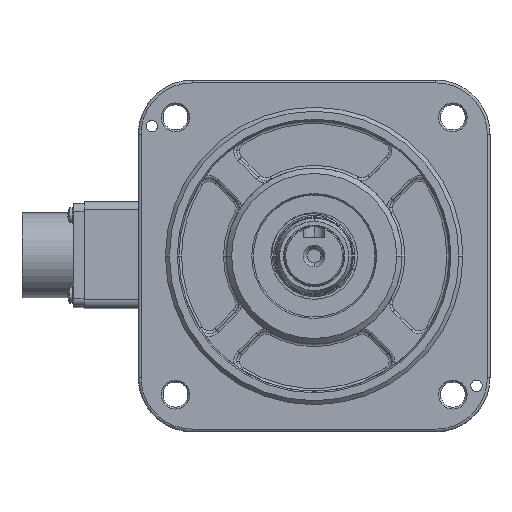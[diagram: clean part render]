
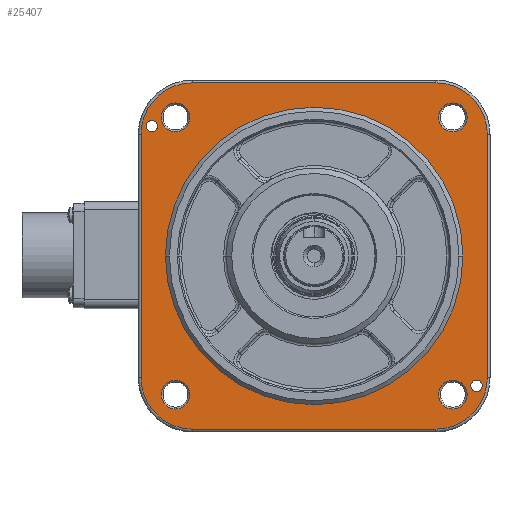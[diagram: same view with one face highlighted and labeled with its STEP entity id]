
A CAD part, left-side view. The second image highlights one B-rep face of the part: STEP entity #25407.
In plain terms, the highlighted planar face has unit normal (-1, 0, 0).
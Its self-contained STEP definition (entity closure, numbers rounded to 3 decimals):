
#20898=CARTESIAN_POINT('',(-107.182,154.96,
-11.475));
#20899=DIRECTION('',(-1.,0.,0.));
#20900=DIRECTION('',(0.,1.,0.));
#20901=AXIS2_PLACEMENT_3D('',#20898,#20899,#20900);
#20903=CARTESIAN_POINT('',(-107.182,154.96,
78.525));
#20904=DIRECTION('',(-1.,0.,0.));
#20905=DIRECTION('',(0.,0.,1.));
#20906=AXIS2_PLACEMENT_3D('',#20903,#20904,#20905);
#20908=CARTESIAN_POINT('',(-107.182,64.96,
78.525));
#20909=DIRECTION('',(-1.,0.,0.));
#20910=DIRECTION('',(0.,-1.,0.));
#20911=AXIS2_PLACEMENT_3D('',#20908,#20909,#20910);
#20913=CARTESIAN_POINT('',(-107.182,64.96,
-11.475));
#20914=DIRECTION('',(-1.,0.,0.));
#20915=DIRECTION('',(0.,0.,-1.));
#20916=AXIS2_PLACEMENT_3D('',#20913,#20914,#20915);
#20918=CARTESIAN_POINT('',(-107.182,169.96,
81.525));
#20919=DIRECTION('',(1.,0.,0.));
#20920=DIRECTION('',(0.,-1.,0.));
#20921=AXIS2_PLACEMENT_3D('',#20918,#20919,#20920);
#20923=CARTESIAN_POINT('',(-107.182,169.96,
81.525));
#20924=DIRECTION('',(1.,0.,0.));
#20925=DIRECTION('',(0.,1.,0.));
#20926=AXIS2_PLACEMENT_3D('',#20923,#20924,#20925);
#20928=CARTESIAN_POINT('',(-107.182,49.96,
-14.475));
#20929=DIRECTION('',(1.,0.,0.));
#20930=DIRECTION('',(0.,-1.,0.));
#20931=AXIS2_PLACEMENT_3D('',#20928,#20929,#20930);
#20933=CARTESIAN_POINT('',(-107.182,49.96,
-14.475));
#20934=DIRECTION('',(1.,0.,0.));
#20935=DIRECTION('',(0.,1.,0.));
#20936=AXIS2_PLACEMENT_3D('',#20933,#20934,#20935);
#20938=CARTESIAN_POINT('',(-107.182,109.96,
33.525));
#20939=DIRECTION('',(1.,0.,0.));
#20940=DIRECTION('',(0.,1.,0.));
#20941=AXIS2_PLACEMENT_3D('',#20938,#20939,#20940);
#20943=CARTESIAN_POINT('',(-107.182,109.96,
33.525));
#20944=DIRECTION('',(1.,0.,0.));
#20945=DIRECTION('',(0.,-1.,0.));
#20946=AXIS2_PLACEMENT_3D('',#20943,#20944,#20945);
#20948=CARTESIAN_POINT('',(-107.182,58.694,
-17.74));
#20949=DIRECTION('',(1.,0.,0.));
#20950=DIRECTION('',(0.,1.,0.));
#20951=AXIS2_PLACEMENT_3D('',#20948,#20949,#20950);
#20953=CARTESIAN_POINT('',(-107.182,58.694,
-17.74));
#20954=DIRECTION('',(1.,0.,0.));
#20955=DIRECTION('',(0.,-1.,0.));
#20956=AXIS2_PLACEMENT_3D('',#20953,#20954,#20955);
#20958=CARTESIAN_POINT('',(-107.182,161.225,
-17.74));
#20959=DIRECTION('',(1.,0.,0.));
#20960=DIRECTION('',(0.,1.,0.));
#20961=AXIS2_PLACEMENT_3D('',#20958,#20959,#20960);
#20963=CARTESIAN_POINT('',(-107.182,161.225,
-17.74));
#20964=DIRECTION('',(1.,0.,0.));
#20965=DIRECTION('',(0.,-1.,0.));
#20966=AXIS2_PLACEMENT_3D('',#20963,#20964,#20965);
#20968=CARTESIAN_POINT('',(-107.182,161.225,
84.79));
#20969=DIRECTION('',(1.,0.,0.));
#20970=DIRECTION('',(0.,1.,0.));
#20971=AXIS2_PLACEMENT_3D('',#20968,#20969,#20970);
#20973=CARTESIAN_POINT('',(-107.182,161.225,
84.79));
#20974=DIRECTION('',(1.,0.,0.));
#20975=DIRECTION('',(0.,-1.,0.));
#20976=AXIS2_PLACEMENT_3D('',#20973,#20974,#20975);
#20978=CARTESIAN_POINT('',(-107.182,58.694,
84.79));
#20979=DIRECTION('',(1.,0.,0.));
#20980=DIRECTION('',(0.,1.,0.));
#20981=AXIS2_PLACEMENT_3D('',#20978,#20979,#20980);
#20983=CARTESIAN_POINT('',(-107.182,58.694,
84.79));
#20984=DIRECTION('',(1.,0.,0.));
#20985=DIRECTION('',(0.,-1.,0.));
#20986=AXIS2_PLACEMENT_3D('',#20983,#20984,#20985);
#20988=DIRECTION('',(0.,1.,0.));
#20989=VECTOR('',#20988,90.);
#20990=CARTESIAN_POINT('',(-107.182,64.96,
-30.475));
#20991=LINE('',#20990,#20989);
#21011=DIRECTION('',(0.,0.,1.));
#21012=VECTOR('',#21011,90.);
#21013=CARTESIAN_POINT('',(-107.182,173.96,
-11.475));
#21014=LINE('',#21013,#21012);
#21038=DIRECTION('',(0.,-1.,0.));
#21039=VECTOR('',#21038,90.);
#21040=CARTESIAN_POINT('',(-107.182,154.96,
97.525));
#21041=LINE('',#21040,#21039);
#21061=DIRECTION('',(0.,0.,-1.));
#21062=VECTOR('',#21061,90.);
#21063=CARTESIAN_POINT('',(-107.182,45.96,
78.525));
#21064=LINE('',#21063,#21062);
#23666=CARTESIAN_POINT('',(-107.182,164.96,
33.525));
#23667=CARTESIAN_POINT('',(-107.182,54.96,
33.525));
#23668=VERTEX_POINT('',#23666);
#23669=VERTEX_POINT('',#23667);
#23764=CARTESIAN_POINT('',(-107.182,63.994,
-17.74));
#23765=CARTESIAN_POINT('',(-107.182,53.394,
-17.74));
#23766=VERTEX_POINT('',#23764);
#23767=VERTEX_POINT('',#23765);
#23895=CARTESIAN_POINT('',(-107.182,154.96,
-30.475));
#23897=VERTEX_POINT('',#23895);
#23904=CARTESIAN_POINT('',(-107.182,154.96,
97.525));
#23906=VERTEX_POINT('',#23904);
#24000=CARTESIAN_POINT('',(-107.182,63.994,
84.79));
#24001=CARTESIAN_POINT('',(-107.182,53.394,
84.79));
#24002=VERTEX_POINT('',#24000);
#24003=VERTEX_POINT('',#24001);
#24022=CARTESIAN_POINT('',(-107.182,155.925,
84.79));
#24024=VERTEX_POINT('',#24022);
#24053=CARTESIAN_POINT('',(-107.182,155.925,
-17.74));
#24055=VERTEX_POINT('',#24053);
#24065=CARTESIAN_POINT('',(-107.182,47.86,
-14.475));
#24066=CARTESIAN_POINT('',(-107.182,52.06,
-14.475));
#24067=VERTEX_POINT('',#24065);
#24068=VERTEX_POINT('',#24066);
#24137=CARTESIAN_POINT('',(-107.182,64.96,
97.525));
#24138=VERTEX_POINT('',#24137);
#24147=CARTESIAN_POINT('',(-107.182,173.96,
-11.475));
#24148=CARTESIAN_POINT('',(-107.182,173.96,
78.525));
#24149=VERTEX_POINT('',#24147);
#24150=VERTEX_POINT('',#24148);
#24231=CARTESIAN_POINT('',(-107.182,45.96,
78.525));
#24232=VERTEX_POINT('',#24231);
#24253=CARTESIAN_POINT('',(-107.182,64.96,
-30.475));
#24254=CARTESIAN_POINT('',(-107.182,45.96,
-11.475));
#24255=VERTEX_POINT('',#24253);
#24256=VERTEX_POINT('',#24254);
#24328=CARTESIAN_POINT('',(-107.182,166.525,
-17.74));
#24329=VERTEX_POINT('',#24328);
#24406=CARTESIAN_POINT('',(-107.182,166.525,
84.79));
#24407=VERTEX_POINT('',#24406);
#24408=CARTESIAN_POINT('',(-107.182,172.06,
81.525));
#24409=CARTESIAN_POINT('',(-107.182,167.86,
81.525));
#24410=VERTEX_POINT('',#24408);
#24411=VERTEX_POINT('',#24409);
#25344=CARTESIAN_POINT('',(-107.182,109.96,
33.525));
#25345=DIRECTION('',(-1.,0.,0.));
#25346=DIRECTION('',(0.,-1.,0.));
#25347=AXIS2_PLACEMENT_3D('',#25344,#25345,#25346);
#25348=PLANE('',#25347);
#25350=ORIENTED_EDGE('',*,*,#25349,.T.);
#25352=ORIENTED_EDGE('',*,*,#25351,.F.);
#25354=ORIENTED_EDGE('',*,*,#25353,.T.);
#25356=ORIENTED_EDGE('',*,*,#25355,.F.);
#25358=ORIENTED_EDGE('',*,*,#25357,.T.);
#25360=ORIENTED_EDGE('',*,*,#25359,.F.);
#25362=ORIENTED_EDGE('',*,*,#25361,.T.);
#25364=ORIENTED_EDGE('',*,*,#25363,.F.);
#25365=EDGE_LOOP('',(#25350,#25352,#25354,#25356,#25358,#25360,#25362,#25364));
#25366=FACE_OUTER_BOUND('',#25365,.F.);
#25368=ORIENTED_EDGE('',*,*,#25367,.F.);
#25370=ORIENTED_EDGE('',*,*,#25369,.F.);
#25371=EDGE_LOOP('',(#25368,#25370));
#25372=FACE_BOUND('',#25371,.F.);
#25374=ORIENTED_EDGE('',*,*,#25373,.F.);
#25376=ORIENTED_EDGE('',*,*,#25375,.F.);
#25377=EDGE_LOOP('',(#25374,#25376));
#25378=FACE_BOUND('',#25377,.F.);
#25380=ORIENTED_EDGE('',*,*,#25379,.F.);
#25382=ORIENTED_EDGE('',*,*,#25381,.F.);
#25383=EDGE_LOOP('',(#25380,#25382));
#25384=FACE_BOUND('',#25383,.F.);
#25386=ORIENTED_EDGE('',*,*,#25385,.F.);
#25388=ORIENTED_EDGE('',*,*,#25387,.F.);
#25389=EDGE_LOOP('',(#25386,#25388));
#25390=FACE_BOUND('',#25389,.F.);
#25391=ORIENTED_EDGE('',*,*,#25323,.F.);
#25392=ORIENTED_EDGE('',*,*,#25338,.F.);
#25393=EDGE_LOOP('',(#25391,#25392));
#25394=FACE_BOUND('',#25393,.F.);
#25396=ORIENTED_EDGE('',*,*,#25395,.F.);
#25398=ORIENTED_EDGE('',*,*,#25397,.F.);
#25399=EDGE_LOOP('',(#25396,#25398));
#25400=FACE_BOUND('',#25399,.F.);
#25402=ORIENTED_EDGE('',*,*,#25401,.F.);
#25404=ORIENTED_EDGE('',*,*,#25403,.F.);
#25405=EDGE_LOOP('',(#25402,#25404));
#25406=FACE_BOUND('',#25405,.F.);
#25407=ADVANCED_FACE('',(#25366,#25372,#25378,#25384,#25390,#25394,#25400,
#25406),#25348,.T.);
#20902=CIRCLE('',#20901,19.);
#20907=CIRCLE('',#20906,19.);
#20912=CIRCLE('',#20911,19.);
#20917=CIRCLE('',#20916,19.);
#20922=CIRCLE('',#20921,2.1);
#20927=CIRCLE('',#20926,2.1);
#20932=CIRCLE('',#20931,2.1);
#20937=CIRCLE('',#20936,2.1);
#20942=CIRCLE('',#20941,55.);
#20947=CIRCLE('',#20946,55.);
#20952=CIRCLE('',#20951,5.3);
#20957=CIRCLE('',#20956,5.3);
#20962=CIRCLE('',#20961,5.3);
#20967=CIRCLE('',#20966,5.3);
#20972=CIRCLE('',#20971,5.3);
#20977=CIRCLE('',#20976,5.3);
#20982=CIRCLE('',#20981,5.3);
#20987=CIRCLE('',#20986,5.3);
#25323=EDGE_CURVE('',#24329,#24055,#20962,.T.);
#25338=EDGE_CURVE('',#24055,#24329,#20967,.T.);
#25349=EDGE_CURVE('',#24255,#23897,#20991,.T.);
#25351=EDGE_CURVE('',#24149,#23897,#20902,.T.);
#25353=EDGE_CURVE('',#24149,#24150,#21014,.T.);
#25355=EDGE_CURVE('',#23906,#24150,#20907,.T.);
#25357=EDGE_CURVE('',#23906,#24138,#21041,.T.);
#25359=EDGE_CURVE('',#24232,#24138,#20912,.T.);
#25361=EDGE_CURVE('',#24232,#24256,#21064,.T.);
#25363=EDGE_CURVE('',#24255,#24256,#20917,.T.);
#25367=EDGE_CURVE('',#24411,#24410,#20922,.T.);
#25369=EDGE_CURVE('',#24410,#24411,#20927,.T.);
#25373=EDGE_CURVE('',#24067,#24068,#20932,.T.);
#25375=EDGE_CURVE('',#24068,#24067,#20937,.T.);
#25379=EDGE_CURVE('',#23668,#23669,#20942,.T.);
#25381=EDGE_CURVE('',#23669,#23668,#20947,.T.);
#25385=EDGE_CURVE('',#23766,#23767,#20952,.T.);
#25387=EDGE_CURVE('',#23767,#23766,#20957,.T.);
#25395=EDGE_CURVE('',#24407,#24024,#20972,.T.);
#25397=EDGE_CURVE('',#24024,#24407,#20977,.T.);
#25401=EDGE_CURVE('',#24002,#24003,#20982,.T.);
#25403=EDGE_CURVE('',#24003,#24002,#20987,.T.);
